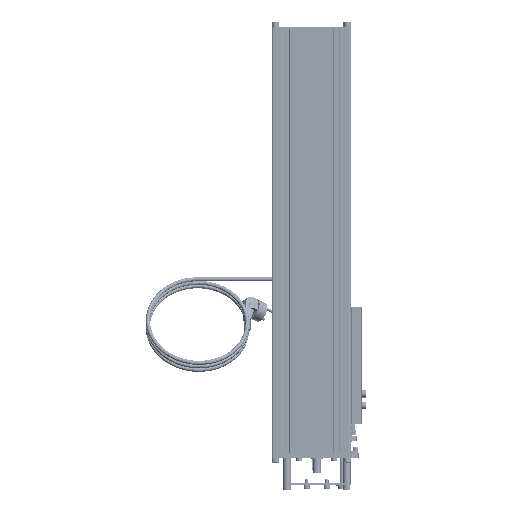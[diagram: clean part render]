
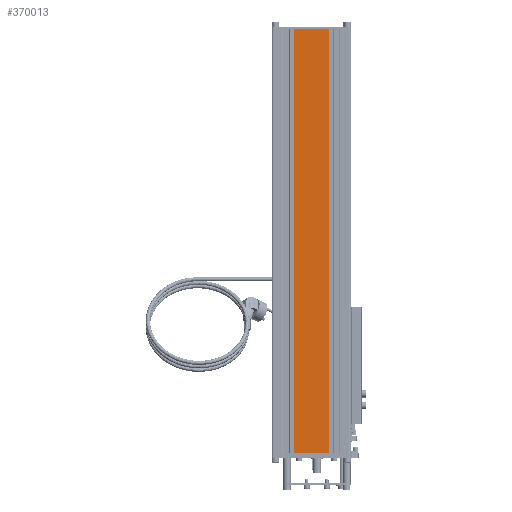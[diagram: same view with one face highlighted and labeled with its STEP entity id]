
A CAD part, left-side view. The second image highlights one B-rep face of the part: STEP entity #370013.
In plain terms, the highlighted planar face has unit normal (-1, 0, 0).
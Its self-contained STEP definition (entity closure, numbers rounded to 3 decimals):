
#12618 = VECTOR ( 'NONE', #239987, 1000. ) ;
#12689 = VERTEX_POINT ( 'NONE', #25331 ) ;
#25331 = CARTESIAN_POINT ( 'NONE',  ( 0.3, 37.623, 0. ) ) ;
#38191 = VERTEX_POINT ( 'NONE', #204301 ) ;
#46616 = VECTOR ( 'NONE', #194831, 1000. ) ;
#97926 = LINE ( 'NONE', #354943, #12618 ) ;
#115843 = EDGE_CURVE ( 'NONE', #350138, #12689, #202793, .T. ) ;
#126095 = EDGE_CURVE ( 'NONE', #350138, #38191, #371226, .T. ) ;
#145592 = CARTESIAN_POINT ( 'NONE',  ( 0.3, 37.623, -725. ) ) ;
#150984 = CARTESIAN_POINT ( 'NONE',  ( 0.3, 97.623, -725. ) ) ;
#152860 = AXIS2_PLACEMENT_3D ( 'NONE', #384363, #271745, #465149 ) ;
#194831 = DIRECTION ( 'NONE',  ( 0., 1., 0. ) ) ;
#195810 = EDGE_CURVE ( 'NONE', #12689, #415303, #97926, .T. ) ;
#202793 = LINE ( 'NONE', #393650, #399707 ) ;
#204301 = CARTESIAN_POINT ( 'NONE',  ( 0.3, 97.623, -725. ) ) ;
#211748 = EDGE_LOOP ( 'NONE', ( #387120, #323989, #407568, #271073 ) ) ;
#239987 = DIRECTION ( 'NONE',  ( 0., 1., 0. ) ) ;
#271073 = ORIENTED_EDGE ( 'NONE', *, *, #126095, .F. ) ;
#271745 = DIRECTION ( 'NONE',  ( 1., 0., 0. ) ) ;
#323989 = ORIENTED_EDGE ( 'NONE', *, *, #195810, .T. ) ;
#341690 = VECTOR ( 'NONE', #401298, 1000. ) ;
#349557 = CARTESIAN_POINT ( 'NONE',  ( 0.3, 97.623, 0. ) ) ;
#350138 = VERTEX_POINT ( 'NONE', #145592 ) ;
#354943 = CARTESIAN_POINT ( 'NONE',  ( 0.3, 97.623, 0. ) ) ;
#370013 = ADVANCED_FACE ( 'NONE', ( #411457 ), #430751, .F. ) ;
#371226 = LINE ( 'NONE', #150984, #46616 ) ;
#372420 = EDGE_CURVE ( 'NONE', #38191, #415303, #442845, .T. ) ;
#384363 = CARTESIAN_POINT ( 'NONE',  ( 0.3, 97.623, -809.119 ) ) ;
#387120 = ORIENTED_EDGE ( 'NONE', *, *, #115843, .T. ) ;
#393650 = CARTESIAN_POINT ( 'NONE',  ( 0.3, 37.623, -809.119 ) ) ;
#399707 = VECTOR ( 'NONE', #432741, 1000. ) ;
#401298 = DIRECTION ( 'NONE',  ( 0., 0., 1. ) ) ;
#407568 = ORIENTED_EDGE ( 'NONE', *, *, #372420, .F. ) ;
#411457 = FACE_OUTER_BOUND ( 'NONE', #211748, .T. ) ;
#415303 = VERTEX_POINT ( 'NONE', #349557 ) ;
#430751 = PLANE ( 'NONE',  #152860 ) ;
#432741 = DIRECTION ( 'NONE',  ( 0., 0., 1. ) ) ;
#442845 = LINE ( 'NONE', #472425, #341690 ) ;
#465149 = DIRECTION ( 'NONE',  ( 0., 1., 0. ) ) ;
#472425 = CARTESIAN_POINT ( 'NONE',  ( 0.3, 97.623, -809.119 ) ) ;
